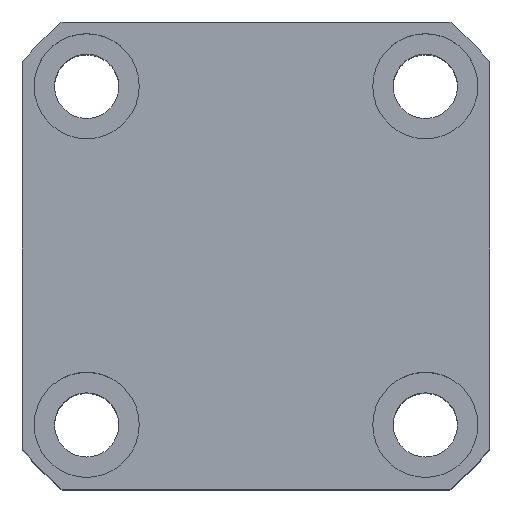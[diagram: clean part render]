
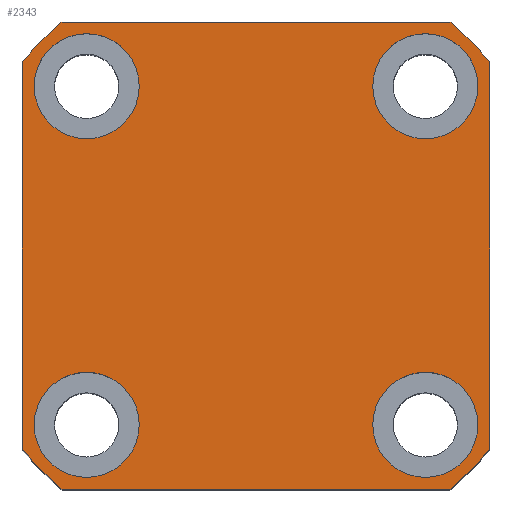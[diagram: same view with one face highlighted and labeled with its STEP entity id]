
A CAD part, top view. The second image highlights one B-rep face of the part: STEP entity #2343.
In plain terms, the highlighted planar face has unit normal (0, 0, 1).
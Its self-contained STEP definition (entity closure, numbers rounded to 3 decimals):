
#112 = EDGE_CURVE ( 'NONE', #4716, #2936, #8160, .T. ) ;
#175 = DIRECTION ( 'NONE',  ( 0., 0., 1. ) ) ;
#183 = VERTEX_POINT ( 'NONE', #4140 ) ;
#208 = VERTEX_POINT ( 'NONE', #8505 ) ;
#220 = LINE ( 'NONE', #13285, #7449 ) ;
#295 = EDGE_CURVE ( 'NONE', #13958, #6109, #9857, .T. ) ;
#452 = VECTOR ( 'NONE', #10502, 1000. ) ;
#700 = DIRECTION ( 'NONE',  ( 0., 0., 1. ) ) ;
#792 = EDGE_CURVE ( 'NONE', #12909, #13418, #6533, .T. ) ;
#1139 = DIRECTION ( 'NONE',  ( 1., 0., 0. ) ) ;
#1196 = DIRECTION ( 'NONE',  ( 1., 0., 0. ) ) ;
#1625 = ORIENTED_EDGE ( 'NONE', *, *, #8368, .F. ) ;
#1713 = DIRECTION ( 'NONE',  ( 0., 0., 1. ) ) ;
#1742 = CARTESIAN_POINT ( 'NONE',  ( 40., 33.226, 47.5 ) ) ;
#1850 = AXIS2_PLACEMENT_3D ( 'NONE', #6606, #11044, #1139 ) ;
#1971 = ORIENTED_EDGE ( 'NONE', *, *, #3190, .F. ) ;
#1991 = VERTEX_POINT ( 'NONE', #8978 ) ;
#2206 = AXIS2_PLACEMENT_3D ( 'NONE', #7771, #5761, #1196 ) ;
#2310 = CIRCLE ( 'NONE', #6341, 9. ) ;
#2343 = ADVANCED_FACE ( 'NONE', ( #11598, #3192, #7325, #5757, #9690 ), #10423, .T. ) ;
#2481 = VERTEX_POINT ( 'NONE', #12873 ) ;
#2535 = CARTESIAN_POINT ( 'NONE',  ( 0., 0., 47.5 ) ) ;
#2557 = ORIENTED_EDGE ( 'NONE', *, *, #12889, .T. ) ;
#2692 = DIRECTION ( 'NONE',  ( 1., 0., 0. ) ) ;
#2789 = VERTEX_POINT ( 'NONE', #11008 ) ;
#2811 = CIRCLE ( 'NONE', #2974, 52. ) ;
#2812 = CARTESIAN_POINT ( 'NONE',  ( 33.226, -40., 47.5 ) ) ;
#2936 = VERTEX_POINT ( 'NONE', #5794 ) ;
#2974 = AXIS2_PLACEMENT_3D ( 'NONE', #12464, #7047, #2692 ) ;
#2985 = CIRCLE ( 'NONE', #1850, 9. ) ;
#3085 = ORIENTED_EDGE ( 'NONE', *, *, #295, .F. ) ;
#3128 = ORIENTED_EDGE ( 'NONE', *, *, #11727, .F. ) ;
#3190 = EDGE_CURVE ( 'NONE', #6109, #13958, #9351, .T. ) ;
#3192 = FACE_BOUND ( 'NONE', #13884, .T. ) ;
#3301 = CARTESIAN_POINT ( 'NONE',  ( 38., 29., 47.5 ) ) ;
#3426 = CARTESIAN_POINT ( 'NONE',  ( -33.226, -40., 47.5 ) ) ;
#3503 = AXIS2_PLACEMENT_3D ( 'NONE', #7198, #1713, #9391 ) ;
#3621 = EDGE_CURVE ( 'NONE', #1991, #8642, #2310, .T. ) ;
#3642 = DIRECTION ( 'NONE',  ( 0., 0., 1. ) ) ;
#3805 = CIRCLE ( 'NONE', #2206, 9. ) ;
#4140 = CARTESIAN_POINT ( 'NONE',  ( -38., 29., 47.5 ) ) ;
#4186 = DIRECTION ( 'NONE',  ( 0., 0., 1. ) ) ;
#4242 = EDGE_LOOP ( 'NONE', ( #1625, #3128 ) ) ;
#4279 = DIRECTION ( 'NONE',  ( 1., 0., 0. ) ) ;
#4498 = AXIS2_PLACEMENT_3D ( 'NONE', #7242, #5078, #11542 ) ;
#4508 = EDGE_CURVE ( 'NONE', #7387, #208, #9512, .T. ) ;
#4538 = ORIENTED_EDGE ( 'NONE', *, *, #12540, .T. ) ;
#4598 = CARTESIAN_POINT ( 'NONE',  ( -33.226, -40., 47.5 ) ) ;
#4688 = CIRCLE ( 'NONE', #13564, 52. ) ;
#4716 = VERTEX_POINT ( 'NONE', #10966 ) ;
#4821 = EDGE_CURVE ( 'NONE', #2936, #9179, #4688, .T. ) ;
#5078 = DIRECTION ( 'NONE',  ( 0., 0., 1. ) ) ;
#5239 = DIRECTION ( 'NONE',  ( 1., 0., 0. ) ) ;
#5376 = CIRCLE ( 'NONE', #4498, 9. ) ;
#5757 = FACE_BOUND ( 'NONE', #6979, .T. ) ;
#5761 = DIRECTION ( 'NONE',  ( 0., 0., 1. ) ) ;
#5772 = VERTEX_POINT ( 'NONE', #6365 ) ;
#5794 = CARTESIAN_POINT ( 'NONE',  ( 40., 33.226, 47.5 ) ) ;
#6109 = VERTEX_POINT ( 'NONE', #10252 ) ;
#6214 = EDGE_LOOP ( 'NONE', ( #8049, #4538, #13443, #9787, #8283, #6945, #10671, #2557 ) ) ;
#6341 = AXIS2_PLACEMENT_3D ( 'NONE', #7557, #11805, #4279 ) ;
#6365 = CARTESIAN_POINT ( 'NONE',  ( -20., 29., 47.5 ) ) ;
#6408 = CIRCLE ( 'NONE', #8194, 9. ) ;
#6533 = LINE ( 'NONE', #4598, #10639 ) ;
#6606 = CARTESIAN_POINT ( 'NONE',  ( -29., 29., 47.5 ) ) ;
#6607 = DIRECTION ( 'NONE',  ( 1., 0., 0. ) ) ;
#6692 = EDGE_LOOP ( 'NONE', ( #7747, #8916 ) ) ;
#6737 = VECTOR ( 'NONE', #6794, 1000. ) ;
#6794 = DIRECTION ( 'NONE',  ( 0., -1., 0. ) ) ;
#6812 = ORIENTED_EDGE ( 'NONE', *, *, #3621, .F. ) ;
#6879 = CARTESIAN_POINT ( 'NONE',  ( -40., 33.226, 47.5 ) ) ;
#6945 = ORIENTED_EDGE ( 'NONE', *, *, #112, .T. ) ;
#6979 = EDGE_LOOP ( 'NONE', ( #3085, #1971 ) ) ;
#7047 = DIRECTION ( 'NONE',  ( 0., 0., 1. ) ) ;
#7120 = DIRECTION ( 'NONE',  ( 1., 0., 0. ) ) ;
#7198 = CARTESIAN_POINT ( 'NONE',  ( 0., 0., 47.5 ) ) ;
#7242 = CARTESIAN_POINT ( 'NONE',  ( 29., -29., 47.5 ) ) ;
#7325 = FACE_BOUND ( 'NONE', #6692, .T. ) ;
#7382 = CARTESIAN_POINT ( 'NONE',  ( 0., 0., 47.5 ) ) ;
#7387 = VERTEX_POINT ( 'NONE', #10775 ) ;
#7434 = DIRECTION ( 'NONE',  ( 0., 0., 1. ) ) ;
#7449 = VECTOR ( 'NONE', #11989, 1000. ) ;
#7557 = CARTESIAN_POINT ( 'NONE',  ( -29., -29., 47.5 ) ) ;
#7747 = ORIENTED_EDGE ( 'NONE', *, *, #7860, .F. ) ;
#7768 = LINE ( 'NONE', #6879, #6737 ) ;
#7771 = CARTESIAN_POINT ( 'NONE',  ( -29., 29., 47.5 ) ) ;
#7860 = EDGE_CURVE ( 'NONE', #5772, #183, #3805, .T. ) ;
#8049 = ORIENTED_EDGE ( 'NONE', *, *, #4508, .T. ) ;
#8064 = AXIS2_PLACEMENT_3D ( 'NONE', #13556, #10343, #7120 ) ;
#8140 = VERTEX_POINT ( 'NONE', #9200 ) ;
#8160 = LINE ( 'NONE', #1742, #452 ) ;
#8194 = AXIS2_PLACEMENT_3D ( 'NONE', #8986, #175, #12304 ) ;
#8218 = EDGE_CURVE ( 'NONE', #2481, #12909, #9454, .T. ) ;
#8283 = ORIENTED_EDGE ( 'NONE', *, *, #8298, .T. ) ;
#8287 = DIRECTION ( 'NONE',  ( 1., 0., 0. ) ) ;
#8298 = EDGE_CURVE ( 'NONE', #13418, #4716, #2811, .T. ) ;
#8368 = EDGE_CURVE ( 'NONE', #2789, #8140, #5376, .T. ) ;
#8505 = CARTESIAN_POINT ( 'NONE',  ( -40., 33.226, 47.5 ) ) ;
#8642 = VERTEX_POINT ( 'NONE', #8840 ) ;
#8840 = CARTESIAN_POINT ( 'NONE',  ( -38., -29., 47.5 ) ) ;
#8916 = ORIENTED_EDGE ( 'NONE', *, *, #12346, .F. ) ;
#8978 = CARTESIAN_POINT ( 'NONE',  ( -20., -29., 47.5 ) ) ;
#8986 = CARTESIAN_POINT ( 'NONE',  ( -29., -29., 47.5 ) ) ;
#9179 = VERTEX_POINT ( 'NONE', #12000 ) ;
#9200 = CARTESIAN_POINT ( 'NONE',  ( 20., -29., 47.5 ) ) ;
#9351 = CIRCLE ( 'NONE', #12186, 9. ) ;
#9391 = DIRECTION ( 'NONE',  ( 1., 0., 0. ) ) ;
#9454 = CIRCLE ( 'NONE', #9636, 52. ) ;
#9512 = CIRCLE ( 'NONE', #13296, 52. ) ;
#9597 = CARTESIAN_POINT ( 'NONE',  ( 29., -29., 47.5 ) ) ;
#9636 = AXIS2_PLACEMENT_3D ( 'NONE', #2535, #3642, #13655 ) ;
#9643 = DIRECTION ( 'NONE',  ( 1., 0., 0. ) ) ;
#9690 = FACE_OUTER_BOUND ( 'NONE', #6214, .T. ) ;
#9787 = ORIENTED_EDGE ( 'NONE', *, *, #792, .T. ) ;
#9788 = CIRCLE ( 'NONE', #13594, 9. ) ;
#9857 = CIRCLE ( 'NONE', #8064, 9. ) ;
#10252 = CARTESIAN_POINT ( 'NONE',  ( 20., 29., 47.5 ) ) ;
#10343 = DIRECTION ( 'NONE',  ( 0., 0., 1. ) ) ;
#10423 = PLANE ( 'NONE',  #3503 ) ;
#10502 = DIRECTION ( 'NONE',  ( 0., 1., 0. ) ) ;
#10639 = VECTOR ( 'NONE', #8287, 1000. ) ;
#10671 = ORIENTED_EDGE ( 'NONE', *, *, #4821, .T. ) ;
#10713 = DIRECTION ( 'NONE',  ( 0., 0., 1. ) ) ;
#10775 = CARTESIAN_POINT ( 'NONE',  ( -33.226, 40., 47.5 ) ) ;
#10966 = CARTESIAN_POINT ( 'NONE',  ( 40., -33.226, 47.5 ) ) ;
#11008 = CARTESIAN_POINT ( 'NONE',  ( 38., -29., 47.5 ) ) ;
#11044 = DIRECTION ( 'NONE',  ( 0., 0., 1. ) ) ;
#11542 = DIRECTION ( 'NONE',  ( 1., 0., 0. ) ) ;
#11598 = FACE_BOUND ( 'NONE', #4242, .T. ) ;
#11727 = EDGE_CURVE ( 'NONE', #8140, #2789, #9788, .T. ) ;
#11805 = DIRECTION ( 'NONE',  ( 0., 0., 1. ) ) ;
#11883 = CARTESIAN_POINT ( 'NONE',  ( 0., 0., 47.5 ) ) ;
#11989 = DIRECTION ( 'NONE',  ( -1., 0., 0. ) ) ;
#12000 = CARTESIAN_POINT ( 'NONE',  ( 33.226, 40., 47.5 ) ) ;
#12186 = AXIS2_PLACEMENT_3D ( 'NONE', #13152, #7434, #6607 ) ;
#12304 = DIRECTION ( 'NONE',  ( 1., 0., 0. ) ) ;
#12346 = EDGE_CURVE ( 'NONE', #183, #5772, #2985, .T. ) ;
#12464 = CARTESIAN_POINT ( 'NONE',  ( 0., 0., 47.5 ) ) ;
#12514 = EDGE_CURVE ( 'NONE', #8642, #1991, #6408, .T. ) ;
#12540 = EDGE_CURVE ( 'NONE', #208, #2481, #7768, .T. ) ;
#12873 = CARTESIAN_POINT ( 'NONE',  ( -40., -33.226, 47.5 ) ) ;
#12889 = EDGE_CURVE ( 'NONE', #9179, #7387, #220, .T. ) ;
#12909 = VERTEX_POINT ( 'NONE', #3426 ) ;
#13152 = CARTESIAN_POINT ( 'NONE',  ( 29., 29., 47.5 ) ) ;
#13234 = ORIENTED_EDGE ( 'NONE', *, *, #12514, .F. ) ;
#13285 = CARTESIAN_POINT ( 'NONE',  ( -33.226, 40., 47.5 ) ) ;
#13296 = AXIS2_PLACEMENT_3D ( 'NONE', #7382, #700, #13822 ) ;
#13418 = VERTEX_POINT ( 'NONE', #2812 ) ;
#13443 = ORIENTED_EDGE ( 'NONE', *, *, #8218, .T. ) ;
#13556 = CARTESIAN_POINT ( 'NONE',  ( 29., 29., 47.5 ) ) ;
#13564 = AXIS2_PLACEMENT_3D ( 'NONE', #11883, #4186, #5239 ) ;
#13594 = AXIS2_PLACEMENT_3D ( 'NONE', #9597, #10713, #9643 ) ;
#13655 = DIRECTION ( 'NONE',  ( 1., 0., 0. ) ) ;
#13822 = DIRECTION ( 'NONE',  ( 1., 0., 0. ) ) ;
#13884 = EDGE_LOOP ( 'NONE', ( #6812, #13234 ) ) ;
#13958 = VERTEX_POINT ( 'NONE', #3301 ) ;
